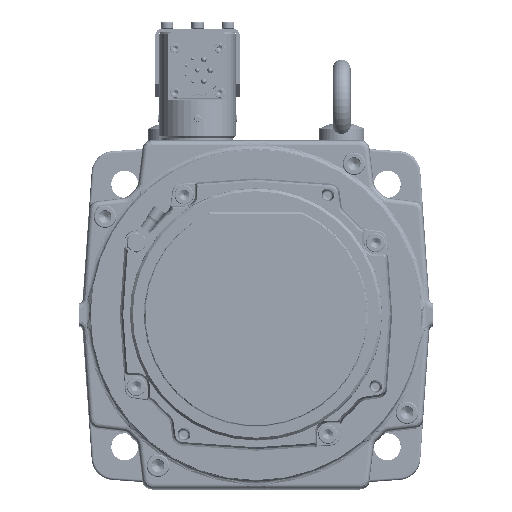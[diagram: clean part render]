
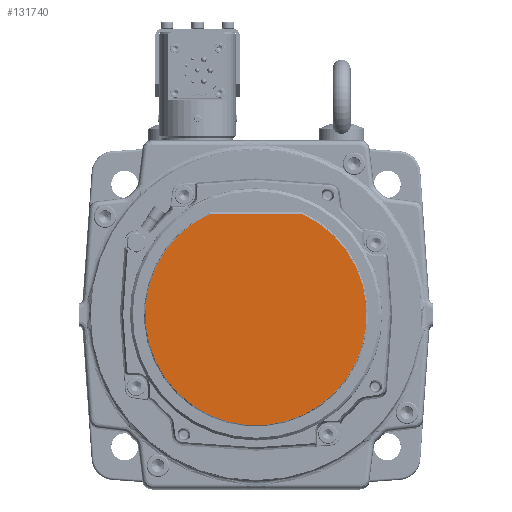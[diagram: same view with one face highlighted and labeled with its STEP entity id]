
A CAD part, top view. The second image highlights one B-rep face of the part: STEP entity #131740.
In plain terms, the highlighted planar face has unit normal (0, 0, 1).
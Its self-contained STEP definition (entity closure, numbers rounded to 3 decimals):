
#123241=CARTESIAN_POINT('',(0.,0.,63.9));
#123242=DIRECTION('',(0.,0.,-1.));
#123243=DIRECTION('',(0.418,0.908,0.));
#123244=AXIS2_PLACEMENT_3D('',#123241,#123242,#123243);
#123253=DIRECTION('',(-1.,0.,0.));
#123254=VECTOR('',#123253,41.125);
#123255=CARTESIAN_POINT('',(20.562,44.7,63.9));
#123256=LINE('',#123255,#123254);
#123931=CARTESIAN_POINT('',(20.562,44.7,63.9));
#123932=CARTESIAN_POINT('',(-20.562,44.7,63.9));
#123933=VERTEX_POINT('',#123931);
#123934=VERTEX_POINT('',#123932);
#131731=CARTESIAN_POINT('',(0.,0.,63.9));
#131732=DIRECTION('',(0.,0.,1.));
#131733=DIRECTION('',(1.,0.,0.));
#131734=AXIS2_PLACEMENT_3D('',#131731,#131732,#131733);
#131735=PLANE('',#131734);
#131736=ORIENTED_EDGE('',*,*,#131710,.T.);
#131737=ORIENTED_EDGE('',*,*,#131722,.F.);
#131738=EDGE_LOOP('',(#131736,#131737));
#131739=FACE_OUTER_BOUND('',#131738,.F.);
#131740=ADVANCED_FACE('',(#131739),#131735,.T.);
#123245=CIRCLE('',#123244,49.203);
#131710=EDGE_CURVE('',#123933,#123934,#123245,.T.);
#131722=EDGE_CURVE('',#123933,#123934,#123256,.T.);
